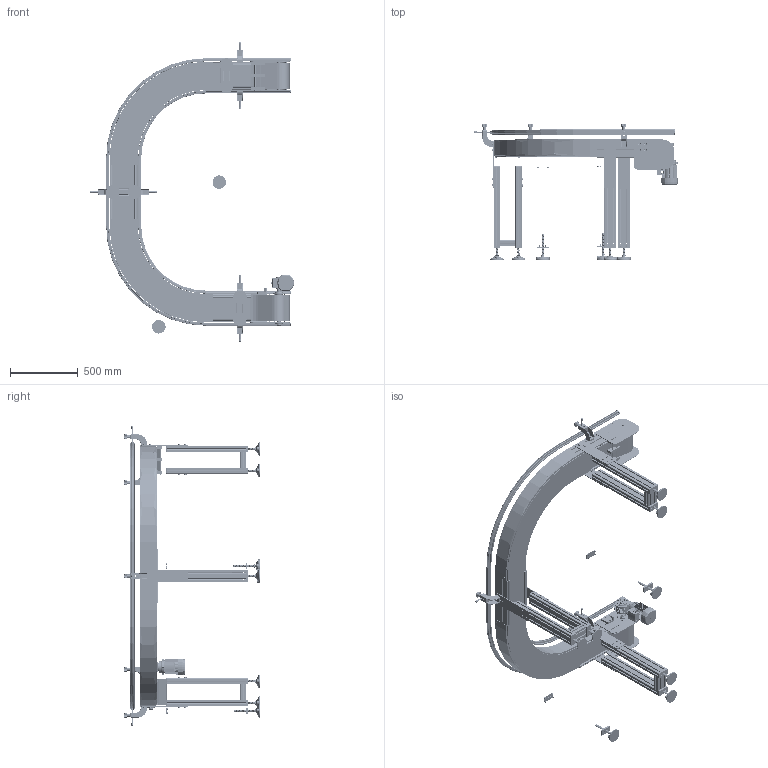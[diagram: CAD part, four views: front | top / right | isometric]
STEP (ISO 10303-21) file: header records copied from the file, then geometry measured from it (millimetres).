
FILE_DESCRIPTION (( 'STEP AP214' ), '1' );
FILE_NAME ('NASTRO_CATENA.step', '2026-05-08T06:51:36', ( '' ), ( '' ), 'SwSTEP 2.0', 'SolidWorks 2024', '' );
FILE_SCHEMA (( 'AUTOMOTIVE_DESIGN' ));
Length unit declared in the file: millimetre
Products named in the file (59): 084.301.000 VITI ALUSIC1_084.301.003; VITI TSEI UNI 5933 INOX_0816UNI5933A2; NASTRO_CATENA; 084.302.000 DADI ALUSIC 13x13-1_084.302.004; CATENA_UDX; 2000.001.401_Default<Lavorato>; VITI TSEI UNI 5933 INOX_0420UNI5933A2; RUOTE DI TRAINO NS882_NS882T12R25; 2000.882.750; 084.802.027; 084.808.004; 084.405.001; 2000.001.210; VITI TE UNI 5739_M8x20 UNI 5739; GAMBE_K750_Default<A macchina>; 2000.001.016; 2000.001.102-1; 2000.750.404_2000.750.404; 084.302.016; 084.302.000 DADI ALUSIC LUNGHI_084.302.016; K750_CC_7_Default<A macchina>; FLANGIA_GAMBE_K750_CON GIUNTI; RONDELLE FASCIA LARGA UNI 6593 INOX_8.4x24 UNI 6593 INOX; K750_R_P; 2000.001.015-1; VITI TCEI UNI 5931 INOX_M8x25 UNI 5931 INOX; SUPPORTO_SPONDA; RONDELLE FASCIA LARGA UNI 6593 INOX_8.4x32 UNI 6593 INOX; 084.712.002; 2000.750.201-1; K750_TC_1_Default<A macchina>; SPONDA_U_DX_Default<A macchina>; 2000.750.104; VITI TE UNI 5739 INOX_M6x20 UNI 5739 INOX; 2000.001.013; 084.402.005; K750_TC_9_Default<A macchina>; K750_90°_S_P; 084.301.000 VITI ALUSIC_084.301.013; 2000.001.017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
Assembly tree (180 placements, depth 3):
  NASTRO_CATENA
    K750_TC_1_Default<A macchina>
    K750_CC_7_Default<A macchina>
    K750_TC_9_Default<A macchina>
    K750_DIR_49_P_DX_VERSIONE DX
      2000.001.013
      084.802.027
      2000.750.103-1
      2000.001.102-1
      2000.001.017
      084.808.004
      CHIAVETTE_A 8x7x70 UNI 6604-69
      SBPF 205  x2
      RONDELLE FASCIA LARGA UNI 6593 INOX_8.4x32 UNI 6593 INOX
      RONDELLE FASCIA LARGA UNI 6593 INOX_8.4x24 UNI 6593 INOX
      VITI TCEI UNI 5931 INOX_M8x25 UNI 5931 INOX  x2
      VITI TSEI UNI 5933 INOX_0420UNI5933A2  x8
      VITI TSEI UNI 5933 INOX_0816UNI5933A2  x6
      084.302.016  x4
    K750_90°_S_P  x2
      2000.750.404_2000.750.404
      2000.001.401_Default<Lavorato>
      084.301.000 VITI ALUSIC_084.301.013
      2000.750.491_MONTAGGIO
      2000.750.492_MONTAGGIO
    K750_R_P
      2000.750.201-1
      2000.750.104  x2
      2000.001.210
      2000.001.211
      2000.001.016  x2
      2000.001.015-1  x3
      RUOTE DI TRAINO NS882_NS882T12R25
      VITI TSEI UNI 5933 INOX_0420UNI5933A2  x8
      VITI TSEI UNI 5933 INOX_0820UNI5933A2  x8
      VITI TSEI UNI 5933 INOX_0825UNI5933A2  x2
      084.302.000 DADI ALUSIC LUNGHI_084.302.016  x4
      RONDELLE UNI 6592 INOX_6.4x12.5 UNI 6592 INOX  x4
      VITI TE UNI 5739 INOX_M6x20 UNI 5739 INOX  x4
    GAMBE_K750_Default<A macchina>  x3
    FLANGIA_GAMBE_K750_CON GIUNTI  x6
      084.709.002_084.709.002
      084.302.000 DADI ALUSIC 13x13-1_084.302.004
      RONDELLE UNI 6592_8.4x17 UNI 6592
      084.302.016
      084.301.000 VITI ALUSIC1_084.301.003
    PIEDE_K750  x8
      084.405.001
      084.402.005
      084.301.000 VITI ALUSIC1_084.301.003
    084.201.019-2  x8
    SPONDA_U_DX_Default<A macchina>
    SUPPORTO_SPONDA  x12
      084.711.004
      084.711.002
      084.711.005
      VITI TE UNI 5739_M8x20 UNI 5739
    084.712.002  x4
    CH05P_DX
    CATENA_UDX
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Bounding box: 1507.36 x 1009.2 x 2216.12 mm (x, y, z)
Volume: 53717337.9 mm3; surface area: 17575494.2 mm2
Topology: 395 solids, 398 shells, 17967 faces, 46754 edges, 29764 vertices
Faces by surface type: cylinder 7647, plane 7360, torus 1041, cone 983, bspline 812, sphere 124
Entity records: 245937 total; most frequent: CARTESIAN_POINT 80173, ORIENTED_EDGE 34846, DIRECTION 33767, EDGE_CURVE 17432, AXIS2_PLACEMENT_3D 11906, VERTEX_POINT 11109, LINE 9955, VECTOR 9955
